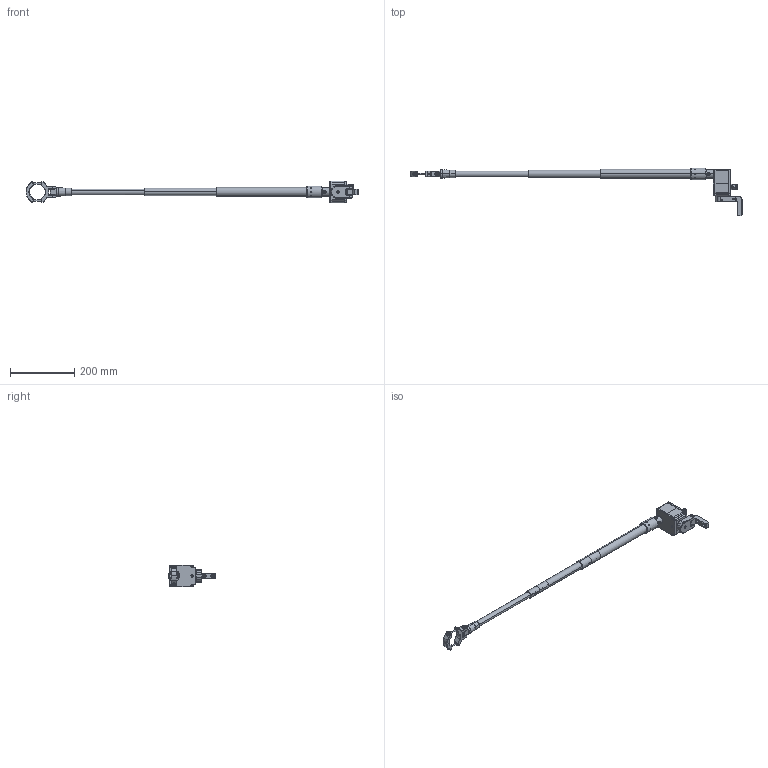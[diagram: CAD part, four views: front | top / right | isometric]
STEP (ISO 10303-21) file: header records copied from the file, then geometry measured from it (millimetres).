
FILE_DESCRIPTION (( 'STEP AP214' ), '1' );
FILE_NAME ('CAR281 TLS1 aperto sensore magnetico.STEP', '2018-12-20T13:59:11', ( '' ), ( '' ), 'SwSTEP 2.0', 'SolidWorks 2017', '' );
FILE_SCHEMA (( 'AUTOMOTIVE_DESIGN' ));
Length unit declared in the file: millimetre
Products named in the file (1): CAR281 TLS1 aperto sensore magnetico
Bounding box: 1036.82 x 149 x 68 mm (x, y, z)
Volume: 393229 mm3; surface area: 273871.5 mm2
Topology: 54 solids, 54 shells, 1622 faces, 3797 edges, 2329 vertices
Faces by surface type: plane 747, cylinder 483, cone 296, torus 58, bspline 38
Entity records: 66803 total; most frequent: CARTESIAN_POINT 10900, DIRECTION 7995, ORIENTED_EDGE 7478, EDGE_CURVE 3739, AXIS2_PLACEMENT_3D 2875, VERTEX_POINT 2329, LINE 2245, VECTOR 2245
